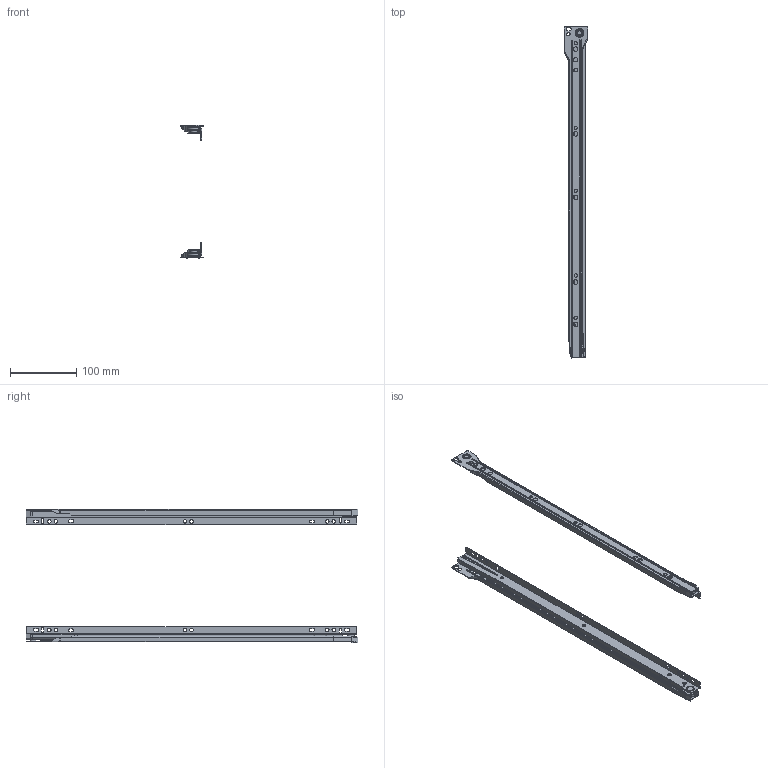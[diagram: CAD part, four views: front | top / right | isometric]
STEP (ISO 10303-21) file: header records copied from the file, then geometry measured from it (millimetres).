
FILE_DESCRIPTION(/* description */ (''),/* implementation_level */ '2;1');
FILE_NAME(/* name */ 'C:\Users\dmitruk\Documents\WORK\НАПРАВЛЯЮЩИЕ\Роликовые\Направляющие роликовая AKS 0.9 mm\Направляющие роликовая AKS 0.9 mm-500.stp',/* time_stamp */ '2022-07-29T15:04:46+03:00',/* author */ ('dmitruk'),/* organization */ (''),/* preprocessor_version */ 'ST-DEVELOPER v16.5',/* originating_system */ 'Autodesk Inventor 2017',/* authorisation */ '');
FILE_SCHEMA (('AUTOMOTIVE_DESIGN { 1 0 10303 214 3 1 1 }'));
Length unit declared in the file: millimetre
Products named in the file (5): Направляющие 
роликовая AKS 0.9 mm; rol_cr_09; rol_cl_09-01; rol_dr_09; rol_dl_09
Assembly tree (4 placements, depth 2):
  Направляющие 
роликовая AKS 0.9 mm
    rol_cr_09
    rol_cl_09-01
    rol_dr_09
    rol_dl_09
Bounding box: 35 x 501.38 x 201 mm (x, y, z)
Volume: 76048.1 mm3; surface area: 153504.7 mm2
Topology: 4 solids, 6 shells, 546 faces, 1415 edges, 888 vertices
Faces by surface type: plane 262, cylinder 209, cone 28, bspline 23, torus 22, sphere 2
Full cylindrical faces by diameter (mm): 5 x10, 5.2 x2, 5.5 x20, 6 x2, 6.1 x5, 6.8 x6, 7.8 x1, 9 x4, 10 x4, 14 x4, 19 x4
Entity records: 17144 total; most frequent: CARTESIAN_POINT 3239, DIRECTION 2867, ORIENTED_EDGE 2632, EDGE_CURVE 1310, AXIS2_PLACEMENT_3D 1039, VERTEX_POINT 888, EDGE_LOOP 798, LINE 789
